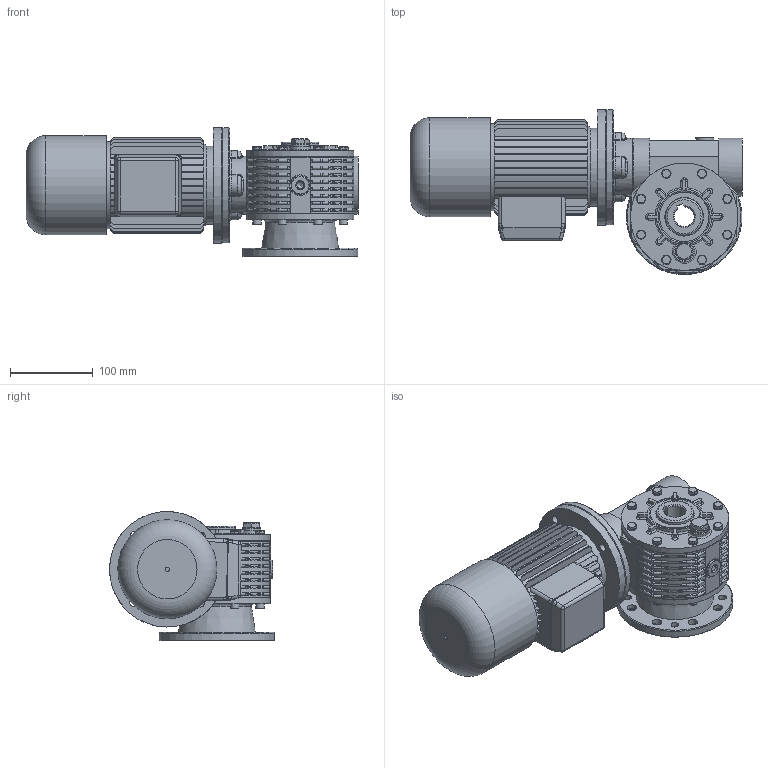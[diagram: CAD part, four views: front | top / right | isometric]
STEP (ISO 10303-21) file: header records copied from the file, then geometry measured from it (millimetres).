
FILE_DESCRIPTION((''),'2;1');
FILE_NAME('Y:\Archivi Inventor\Prog_01\GRAND_20\figuirini\mrv20_sito\63_AUTOFRENANTE\MRV---20---F2-----63----B5-F3D.stp','2013-02-08T15:50:59',('tech3'),(''),'Autodesk Inventor 2013','Autodesk Inventor 2013','');
FILE_SCHEMA(('AUTOMOTIVE_DESIGN { 1 0 10303 214 1 1 1 1 }'));
Length unit declared in the file: millimetre
Products named in the file (18): fig_mrv20_63_b5; mrv20; 0102001; Coperchietto_47x7; Guarnizione 3_8 GAS; Tappo 3_8 GAS_esagn_incsst; mozzo_corona_fig; PARAOLIO 45x60x8; 0102029; 0102002-A1_fig; 0102003; ISO 4762 M6 x 16; DIN EN 24017 M6 x 12; Tappo3_8 GAS; 0102028; DIN EN ISO 4762 M6 x 20; 0102006; motori B5 brake 63
Assembly tree (40 placements, depth 3):
  fig_mrv20_63_b5
    mrv20
      0102001
      Coperchietto_47x7
      Guarnizione 3_8 GAS  x3
      Tappo 3_8 GAS_esagn_incsst  x2
      mozzo_corona_fig
      PARAOLIO 45x60x8  x2
      0102029  x2
      0102002-A1_fig
      0102003
      ISO 4762 M6 x 16  x8
      DIN EN 24017 M6 x 12  x9
      Tappo3_8 GAS
      0102028
      DIN EN ISO 4762 M6 x 20  x4
    0102006
    motori B5 brake 63
Bounding box: 402 x 199.73 x 156.35 mm (x, y, z)
Volume: 3343609.4 mm3; surface area: 594730.6 mm2
Topology: 40 solids, 52 shells, 2037 faces, 4912 edges, 2970 vertices
Faces by surface type: plane 894, cylinder 621, bspline 188, torus 176, cone 146, sphere 12
Full cylindrical faces by diameter (mm): 2 x2, 4.917 x20, 5 x1, 6 x21, 6.5 x28, 6.75 x4, 7 x8, 8 x2, 8.88 x9, 9.5 x8, 10 x12, 11 x9, 11.5 x8, 13.046 x1, 14.95 x3, 16.3 x3, 16.5 x2, 22 x6, 25 x2, 40 x1, 41.36 x1, 44.4 x2, 45 x4, 47 x4, 49.5 x1, 50.605 x2, 55.5 x2, 60 x5, 69.5 x1, 70 x2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
Entity records: 58600 total; most frequent: CARTESIAN_POINT 19321, DIRECTION 8212, ORIENTED_EDGE 7668, EDGE_CURVE 3834, AXIS2_PLACEMENT_3D 3293, VERTEX_POINT 2461, EDGE_LOOP 2061, CIRCLE 1725
